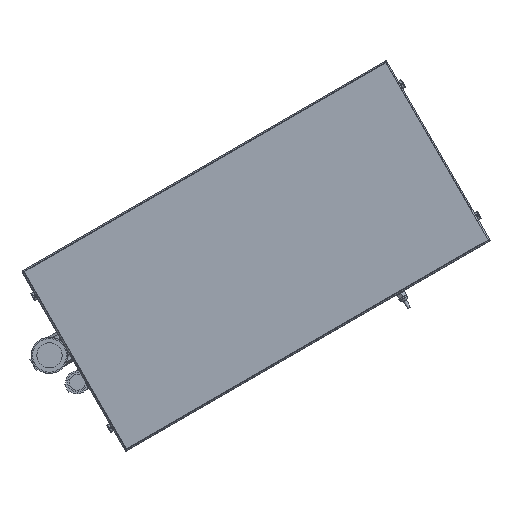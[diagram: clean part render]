
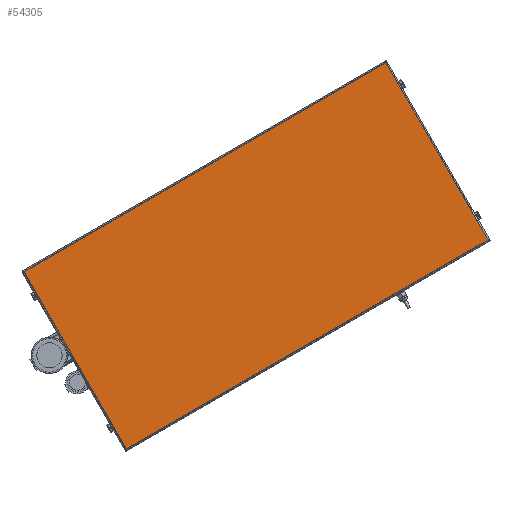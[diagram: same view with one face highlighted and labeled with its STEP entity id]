
A CAD part, top view. The second image highlights one B-rep face of the part: STEP entity #54305.
In plain terms, the highlighted planar face has unit normal (0, 0, 1).
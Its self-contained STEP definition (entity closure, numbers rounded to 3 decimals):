
#173 = ORIENTED_EDGE ( 'NONE', *, *, #45348, .T. ) ;
#1731 = LINE ( 'NONE', #11792, #14034 ) ;
#2608 = PLANE ( 'NONE',  #54372 ) ;
#3422 = CARTESIAN_POINT ( 'NONE',  ( -386.467, -83.119, 959.5 ) ) ;
#7503 = CARTESIAN_POINT ( 'NONE',  ( -262.485, -293.863, 959.5 ) ) ;
#7636 = DIRECTION ( 'NONE',  ( 0.5, -0.866, 0. ) ) ;
#9323 = LINE ( 'NONE', #47107, #34311 ) ;
#9544 = VERTEX_POINT ( 'NONE', #59497 ) ;
#11516 = EDGE_CURVE ( 'NONE', #9544, #12976, #27442, .T. ) ;
#11792 = CARTESIAN_POINT ( 'NONE',  ( 167.363, -43.381, 959.5 ) ) ;
#12976 = VERTEX_POINT ( 'NONE', #60655 ) ;
#12995 = CARTESIAN_POINT ( 'NONE',  ( -263.668, -292.814, 959.5 ) ) ;
#14034 = VECTOR ( 'NONE', #54904, 1000. ) ;
#15262 = VECTOR ( 'NONE', #55687, 1000. ) ;
#19669 = EDGE_CURVE ( 'NONE', #12976, #32875, #31737, .T. ) ;
#19693 = CARTESIAN_POINT ( 'NONE',  ( 165.631, -44.381, 959.5 ) ) ;
#20539 = VECTOR ( 'NONE', #45596, 1000. ) ;
#22541 = FACE_OUTER_BOUND ( 'NONE', #48521, .T. ) ;
#27442 = LINE ( 'NONE', #3422, #15262 ) ;
#28844 = DIRECTION ( 'NONE',  ( -0.5, 0.866, 0. ) ) ;
#31737 = LINE ( 'NONE', #7503, #20539 ) ;
#32875 = VERTEX_POINT ( 'NONE', #49245 ) ;
#32966 = VERTEX_POINT ( 'NONE', #19693 ) ;
#34311 = VECTOR ( 'NONE', #28844, 1000. ) ;
#37857 = ORIENTED_EDGE ( 'NONE', *, *, #11516, .T. ) ;
#45303 = ORIENTED_EDGE ( 'NONE', *, *, #19669, .T. ) ;
#45348 = EDGE_CURVE ( 'NONE', #32875, #32966, #1731, .T. ) ;
#45596 = DIRECTION ( 'NONE',  ( 0.5, -0.866, 0. ) ) ;
#47107 = CARTESIAN_POINT ( 'NONE',  ( 43.381, 167.363, 959.5 ) ) ;
#48521 = EDGE_LOOP ( 'NONE', ( #56558, #37857, #45303, #173 ) ) ;
#49245 = CARTESIAN_POINT ( 'NONE',  ( -263.485, -292.131, 959.5 ) ) ;
#52974 = EDGE_CURVE ( 'NONE', #32966, #9544, #9323, .T. ) ;
#54305 = ADVANCED_FACE ( 'NONE', ( #22541 ), #2608, .T. ) ;
#54372 = AXIS2_PLACEMENT_3D ( 'NONE', #12995, #54836, #7636 ) ;
#54836 = DIRECTION ( 'NONE',  ( 0., 0., 1. ) ) ;
#54904 = DIRECTION ( 'NONE',  ( 0.866, 0.5, 0. ) ) ;
#55687 = DIRECTION ( 'NONE',  ( -0.866, -0.5, 0. ) ) ;
#56558 = ORIENTED_EDGE ( 'NONE', *, *, #52974, .T. ) ;
#59497 = CARTESIAN_POINT ( 'NONE',  ( 44.381, 165.631, 959.5 ) ) ;
#60655 = CARTESIAN_POINT ( 'NONE',  ( -384.735, -82.119, 959.5 ) ) ;
